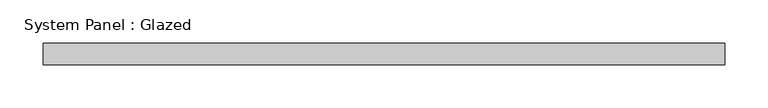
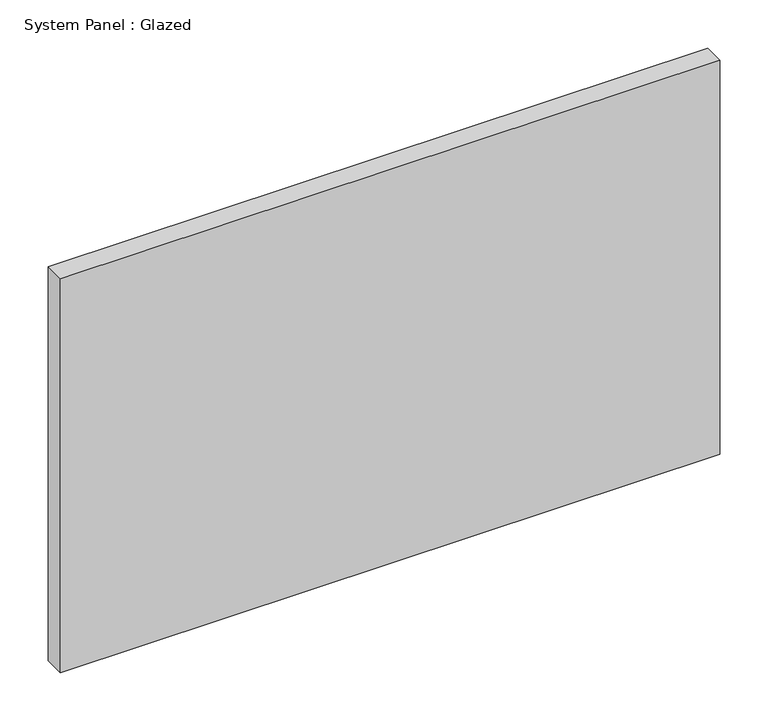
"""IFC4 building model written with IfcOpenShell, lengths in millimetres: plate geometry, System Panel : Glazed."""

from ifc_helpers import new_model, si_unit, origin, origin_with_axes, place, context, project, spatial, polyline, outline, extrude, source, transform, mapped, element, save


def system_panel_glazed_e800b1ad(model_context):
    return source(origin(), model_context, "Body", "SweptSolid", [
        extrude(outline(polyline([(395.8333332, 24.5), (-395.8333332, 24.5), (-395.8333332, 49.5), (395.8333332, 49.5), (395.8333332, 24.5)])), origin_with_axes(), (0.0, 0.0, 1.0), 500.0),
    ])


if __name__ == "__main__":
    model = new_model("IFC4")
    model_context = context("Model", 3, world=origin())
    ifc_project = project(units=[si_unit("LENGTHUNIT", "METRE", prefix="MILLI")], contexts=[model_context])
    site = spatial("IfcSite", under=ifc_project)
    building = spatial("IfcBuilding", under=site)
    placement = place(None, origin())
    system_panel_glazed_shape = system_panel_glazed_e800b1ad(model_context)
    element("IfcPlate", 1, ObjectType="System Panel : Glazed", at=placement, inside=building, context=model_context, shape_type="MappedRepresentation", body=[
        mapped(system_panel_glazed_shape, transform((0.0, 0.0, 0.0), x_axis=(1.0, 0.0, 0.0), y_axis=(0.0, 1.0, 0.0), z_axis=(0.0, 0.0, 1.0))),
    ])
    save(model, "model.ifc")
